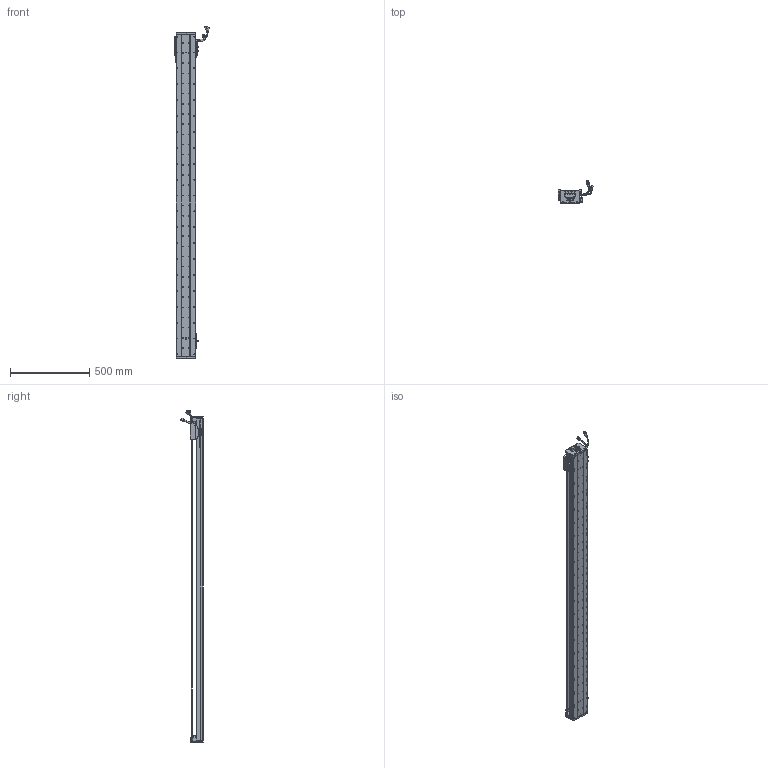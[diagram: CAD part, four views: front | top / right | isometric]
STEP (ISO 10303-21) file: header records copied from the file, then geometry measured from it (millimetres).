
FILE_DESCRIPTION (( 'STEP AP203' ), '1' );
FILE_NAME ('Z1-RY120D-1-L500-B-K.SLDASM_1850.step', '2021-05-17T03:49:16', ( '盈信电脑' ), ( '东莞市道滘镇水果街19号' ), 'SwSTEP 2.0', 'SolidWorks 2016', '' );
FILE_SCHEMA (( 'CONFIG_CONTROL_DESIGN' ));
Length unit declared in the file: millimetre
Products named in the file (37): 140蚥薯蝶輸; LABEL; HARNESS; RY100FB-遵嫖萇覜茼え; SCREW-M1.6-3; SCALE-Part-1; SCREW-M1.7-1; Z1-RY120D-1-L500-B-K.SLDASM_1850; 080黍杅芛假蚾釱21遴; SCALE-Part-2; 覜茼ん672; SHIELDPLATE; 140雄赽晤鎢ん堤盄; LABEL-Part-1; SEAL-Part-1; HOLDER0; 672嫖萇羲壽假蚾釱; SCREW-M1.6; 榋妏寠巭燃_暯_M2_2; COVER; Z-RY120D詩湍奻揤裔; 120-Z-臏賑輸盄裔(21遴); PSLH080_PSLF2; SEAL; HARNESS-Part-2; Z1-RY120铝滑块（21款）; PBU_SHEET; SCALE; COVER-Part-1; SCREW-M1.6-1; Z1-RY120-500-倰第菁釱_1850; HARNESS-Part-1; SCREW-M1.6-2; Z-120詩湍傷裔啣; Z-RY120D詩湍狟揤裔; Z1-RY120-L500詩湍100mm遵_1850; SCREW-M1.7
Assembly tree (43 placements, depth 4):
  Z1-RY120D-1-L500-B-K.SLDASM_1850
    Z1-RY120-500-倰第菁釱_1850
    覜茼ん672  x3
    672嫖萇羲壽假蚾釱  x2
    Z1-RY120铝滑块（21款）
    PSLH080_PSLF2
      SCALE
        SCALE-Part-1
        SCALE-Part-2
      HARNESS
        HARNESS-Part-1
        HARNESS-Part-2
      LABEL
        LABEL-Part-1
      COVER
        COVER-Part-1
      SEAL
        SEAL-Part-1
      榋妏寠巭燃_暯_M2_2
      SHIELDPLATE
      SCREW-M1.7
      SCREW-M1.7-1
      PBU_SHEET
      SCREW-M1.6
      SCREW-M1.6-1
      SCREW-M1.6-2
      SCREW-M1.6-3
      HOLDER0
    080黍杅芛假蚾釱21遴
    120-Z-臏賑輸盄裔(21遴)
    140雄赽晤鎢ん堤盄
    140蚥薯蝶輸  x2
    RY100FB-遵嫖萇覜茼え
    Z-120詩湍傷裔啣  x2
    Z-RY120D詩湍奻揤裔  x2
    Z-RY120D詩湍狟揤裔  x2
    Z1-RY120-L500詩湍100mm遵_1850
Bounding box: 222.88 x 140.94 x 2088.99 mm (x, y, z)
Volume: 4762122.4 mm3; surface area: 1702873 mm2
Topology: 38 solids, 38 shells, 3317 faces, 9340 edges, 5902 vertices
Faces by surface type: cylinder 1666, plane 1199, cone 330, torus 69, bspline 53
Entity records: 108427 total; most frequent: CARTESIAN_POINT 32476, ORIENTED_EDGE 15544, DIRECTION 14380, EDGE_CURVE 7772, AXIS2_PLACEMENT_3D 5276, VERTEX_POINT 5022, VECTOR 3828, LINE 3828
